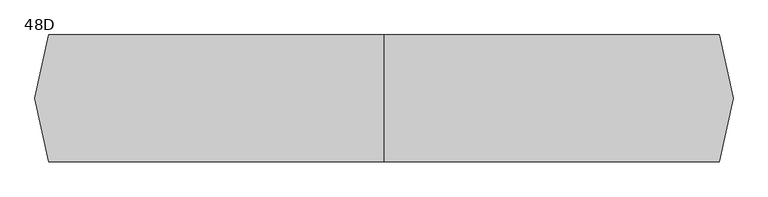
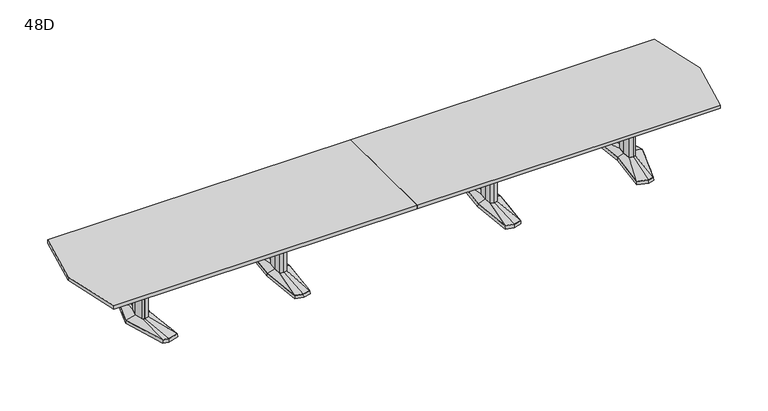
"""IFC4 building model written with IfcOpenShell, lengths in millimetres: furniture geometry, Coalesse_AM_Table_Conference_ETable2_Faceted_22ft_AluminiumBase : 48D."""

from ifc_helpers import new_model, si_unit, frame, origin, place, context, project, spatial, polyline, outline, extrude, faceted_brep, source, transform, mapped, element, save
from ifc_brep_helpers import plane_surface, spline_surface, advanced_brep


def furniture_48d_a73211f9(model_context):
    return source(origin(), model_context, "Body", "SolidModel", [
        faceted_brep([(1036.3666209, -433.8053819, 38.1), (1117.6, -455.556576, 38.1), (1198.8333791, -433.8053819, 38.1), (1236.6564774, 0.0, 38.1), (1198.8333791, 433.8053819, 38.1), (1117.6, 455.556576, 38.1), (1036.3666209, 433.8053819, 38.1), (998.5435226, 0.0, 38.1), (1034.8817205, -435.0512063, 3.175), (996.95, 0.0, 3.175), (1034.8817205, 435.0512063, 3.175), (1117.6, 457.2, 3.175), (1200.3182795, 435.0512063, 3.175), (1238.25, 0.0, 3.175), (1200.3182795, -435.0512063, 3.175), (1117.6, -457.2, 3.175), (1117.6, 429.2617927, 3.175), (1039.6323194, 408.3850278, 3.175), (1042.8980179, 382.9646737, 3.175), (1117.6, 402.9670094, 3.175), (1192.3019821, 382.9646737, 3.175), (1195.5676806, 408.3850278, 3.175), (1117.6, -429.2617927, 3.175), (1195.5676806, -408.3850278, 3.175), (1192.3019821, -382.9646737, 3.175), (1117.6, -402.9670094, 3.175), (1042.8980179, -382.9646737, 3.175), (1039.6323194, -408.3850278, 3.175), (1045.7425738, 114.6326257, 3.175), (1035.0573924, 0.0, 3.175), (1045.7425738, -114.6326257, 3.175), (1117.6, -133.8761372, 3.175), (1189.4574262, -114.6326257, 3.175), (1200.1426076, 0.0, 3.175), (1189.4574262, 114.6326257, 3.175), (1117.6, 133.8761372, 3.175), (1117.6, 429.2617927, 0.0), (1195.5676806, 408.3850278, 0.0), (1192.3019821, 382.9646737, 0.0), (1117.6, 402.9670094, 0.0), (1042.8980179, 382.9646737, 0.0), (1039.6323194, 408.3850278, 0.0), (1117.6, -429.2617927, 0.0), (1039.6323194, -408.3850278, 0.0), (1042.8980179, -382.9646737, 0.0), (1117.6, -402.9670094, 0.0), (1192.3019821, -382.9646737, 0.0), (1195.5676806, -408.3850278, 0.0), (1045.7425738, 114.6326257, 0.0), (1117.6, 133.8761372, 0.0), (1189.4574262, 114.6326257, 0.0), (1200.1426076, 0.0, 0.0), (1189.4574262, -114.6326257, 0.0), (1117.6, -133.8761372, 0.0), (1045.7425738, -114.6326257, 0.0), (1035.0573924, 0.0, 0.0)], [[[0, 1, 2, 3, 4, 5, 6, 7]], [[8, 9, 10, 11, 12, 13, 14, 15], [16, 17, 18, 19, 20, 21], [22, 23, 24, 25, 26, 27], [28, 29, 30, 31, 32, 33, 34, 35]], [[1, 0, 8, 15]], [[2, 1, 15, 14]], [[3, 2, 14, 13]], [[4, 3, 13, 12]], [[5, 4, 12, 11]], [[6, 5, 11, 10]], [[7, 6, 10, 9]], [[0, 7, 9, 8]], [[36, 37, 38, 39, 40, 41]], [[42, 43, 44, 45, 46, 47]], [[48, 49, 50, 51, 52, 53, 54, 55]], [[36, 41, 17, 16]], [[41, 40, 18, 17]], [[40, 39, 19, 18]], [[39, 38, 20, 19]], [[38, 37, 21, 20]], [[37, 36, 16, 21]], [[42, 47, 23, 22]], [[47, 46, 24, 23]], [[46, 45, 25, 24]], [[45, 44, 26, 25]], [[44, 43, 27, 26]], [[43, 42, 22, 27]], [[48, 55, 29, 28]], [[55, 54, 30, 29]], [[54, 53, 31, 30]], [[53, 52, 32, 31]], [[52, 51, 33, 32]], [[51, 50, 34, 33]], [[50, 49, 35, 34]], [[49, 48, 28, 35]]]),
        faceted_brep([(1081.2167166, 84.6900825, 698.5), (1073.3225513, 0.0, 698.5), (1081.2167166, -84.6900825, 698.5), (1117.6, -94.4335728, 698.5), (1153.9832834, -84.6900825, 698.5), (1161.8774487, 0.0, 698.5), (1153.9832834, 84.6900825, 698.5), (1117.6, 94.4335728, 698.5), (1081.2167166, 84.6900825, 63.5), (1117.6, 94.4335728, 63.5), (1153.9832834, 84.6900825, 63.5), (1161.8774487, 0.0, 63.5), (1153.9832834, -84.6900825, 63.5), (1117.6, -94.4335728, 63.5), (1081.2167166, -84.6900825, 63.5), (1073.3225513, 0.0, 63.5)], [[[0, 1, 2, 3, 4, 5, 6, 7]], [[8, 9, 10, 11, 12, 13, 14, 15]], [[1, 0, 8, 15]], [[2, 1, 15, 14]], [[3, 2, 14, 13]], [[4, 3, 13, 12]], [[5, 4, 12, 11]], [[6, 5, 11, 10]], [[7, 6, 10, 9]], [[0, 7, 9, 8]]]),
        advanced_brep(
        [(1081.2167166, 84.6900825, 63.5), (1073.3225513, 0.0, 63.5), (1081.2167166, -84.6900825, 63.5), (1117.6, -94.4335728, 63.5), (1153.9832834, -84.6900825, 63.5), (1161.8774487, 0.0, 63.5), (1153.9832834, 84.6900825, 63.5), (1117.6, 94.4335728, 63.5), (1036.3666209, 433.8053819, 38.1), (1117.6, 455.556576, 38.1), (1198.8333791, 433.8053819, 38.1), (1236.6564774, 0.0, 38.1), (1198.8333791, -433.8053819, 38.1), (1117.6, -455.556576, 38.1), (1036.3666209, -433.8053819, 38.1), (998.5435226, 0.0, 38.1)],
        [
            (0, 1),
            (1, 2),
            (2, 3),
            (3, 4),
            (4, 5),
            (5, 6),
            (6, 7),
            (7, 0),
            (8, 9),
            (9, 10),
            (10, 11),
            (11, 12),
            (12, 13),
            (13, 14),
            (14, 15),
            (15, 8),
            (15, 1),
            (0, 8),
            (14, 2),
            (13, 3),
            (12, 4),
            (11, 5),
            (10, 6),
            (9, 7),
        ],
        [
            plane_surface(frame((1117.6, 0.0, 63.5), z_axis=(0.0, 0.0, 1.0000000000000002), x_axis=(-0.9659615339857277, -0.25868574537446, 0.0))),
            plane_surface(frame((1117.6, 0.0, 38.1), z_axis=(0.0, 0.0, -1.0000000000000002), x_axis=(-0.9659615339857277, -0.25868574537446, 0.0))),
            spline_surface(1, 1, [[(1036.3666209, 433.8053819, 38.1), (1081.2167166, 84.6900825, 63.5)], [(998.5435226, 0.0, 38.1), (1073.3225513, 0.0, 63.5)]], [2, 2], [2, 2], [0.0, 1.0], [0.0, 1.0]),
            spline_surface(1, 1, [[(998.5435226, 0.0, 38.1), (1073.3225513, 0.0, 63.5)], [(1036.3666209, -433.8053819, 38.1), (1081.2167166, -84.6900825, 63.5)]], [2, 2], [2, 2], [0.0, 1.0], [0.0, 1.0]),
            spline_surface(1, 1, [[(1036.3666209, -433.8053819, 38.1), (1081.2167166, -84.6900825, 63.5)], [(1117.6, -455.556576, 38.1), (1117.6, -94.4335728, 63.5)]], [2, 2], [2, 2], [0.0, 1.0], [0.0, 1.0]),
            spline_surface(1, 1, [[(1117.6, -455.556576, 38.1), (1117.6, -94.4335728, 63.5)], [(1198.8333791, -433.8053819, 38.1), (1153.9832834, -84.6900825, 63.5)]], [2, 2], [2, 2], [0.0, 1.0], [0.0, 1.0]),
            spline_surface(1, 1, [[(1198.8333791, -433.8053819, 38.1), (1153.9832834, -84.6900825, 63.5)], [(1236.6564774, 0.0, 38.1), (1161.8774487, 0.0, 63.5)]], [2, 2], [2, 2], [0.0, 1.0], [0.0, 1.0]),
            spline_surface(1, 1, [[(1236.6564774, 0.0, 38.1), (1161.8774487, 0.0, 63.5)], [(1198.8333791, 433.8053819, 38.1), (1153.9832834, 84.6900825, 63.5)]], [2, 2], [2, 2], [0.0, 1.0], [0.0, 1.0]),
            spline_surface(1, 1, [[(1198.8333791, 433.8053819, 38.1), (1153.9832834, 84.6900825, 63.5)], [(1117.6, 455.556576, 38.1), (1117.6, 94.4335728, 63.5)]], [2, 2], [2, 2], [0.0, 1.0], [0.0, 1.0]),
            spline_surface(1, 1, [[(1117.6, 455.556576, 38.1), (1117.6, 94.4335728, 63.5)], [(1036.3666209, 433.8053819, 38.1), (1081.2167166, 84.6900825, 63.5)]], [2, 2], [2, 2], [0.0, 1.0], [0.0, 1.0]),
        ],
        [
            (0, [[1, 2, 3, 4, 5, 6, 7, 8]]),
            (1, [[9, 10, 11, 12, 13, 14, 15, 16]]),
            (2, [[-16, 17, -1, 18]]),
            (3, [[-15, 19, -2, -17]]),
            (4, [[-14, 20, -3, -19]]),
            (5, [[-13, 21, -4, -20]]),
            (6, [[-12, 22, -5, -21]]),
            (7, [[-11, 23, -6, -22]]),
            (8, [[-10, 24, -7, -23]]),
            (9, [[-9, -18, -8, -24]]),
        ],
    ),
        faceted_brep([(-1198.8333791, -433.8053819, 38.1), (-1117.6, -455.556576, 38.1), (-1036.3666209, -433.8053819, 38.1), (-998.5435226, 0.0, 38.1), (-1036.3666209, 433.8053819, 38.1), (-1117.6, 455.556576, 38.1), (-1198.8333791, 433.8053819, 38.1), (-1236.6564774, 0.0, 38.1), (-1200.3182795, -435.0512063, 3.175), (-1238.25, 0.0, 3.175), (-1200.3182795, 435.0512063, 3.175), (-1117.6, 457.2, 3.175), (-1034.8817205, 435.0512063, 3.175), (-996.95, 0.0, 3.175), (-1034.8817205, -435.0512063, 3.175), (-1117.6, -457.2, 3.175), (-1117.6, 429.2617927, 3.175), (-1195.5676806, 408.3850278, 3.175), (-1192.3019821, 382.9646737, 3.175), (-1117.6, 402.9670094, 3.175), (-1042.8980179, 382.9646737, 3.175), (-1039.6323194, 408.3850278, 3.175), (-1117.6, -429.2617927, 3.175), (-1039.6323194, -408.3850278, 3.175), (-1042.8980179, -382.9646737, 3.175), (-1117.6, -402.9670094, 3.175), (-1192.3019821, -382.9646737, 3.175), (-1195.5676806, -408.3850278, 3.175), (-1189.4574262, 114.6326257, 3.175), (-1200.1426076, 0.0, 3.175), (-1189.4574262, -114.6326257, 3.175), (-1117.6, -133.8761372, 3.175), (-1045.7425738, -114.6326257, 3.175), (-1035.0573924, 0.0, 3.175), (-1045.7425738, 114.6326257, 3.175), (-1117.6, 133.8761372, 3.175), (-1117.6, 429.2617927, 0.0), (-1039.6323194, 408.3850278, 0.0), (-1042.8980179, 382.9646737, 0.0), (-1117.6, 402.9670094, 0.0), (-1192.3019821, 382.9646737, 0.0), (-1195.5676806, 408.3850278, 0.0), (-1117.6, -429.2617927, 0.0), (-1195.5676806, -408.3850278, 0.0), (-1192.3019821, -382.9646737, 0.0), (-1117.6, -402.9670094, 0.0), (-1042.8980179, -382.9646737, 0.0), (-1039.6323194, -408.3850278, 0.0), (-1189.4574262, 114.6326257, 0.0), (-1117.6, 133.8761372, 0.0), (-1045.7425738, 114.6326257, 0.0), (-1035.0573924, 0.0, 0.0), (-1045.7425738, -114.6326257, 0.0), (-1117.6, -133.8761372, 0.0), (-1189.4574262, -114.6326257, 0.0), (-1200.1426076, 0.0, 0.0)], [[[0, 1, 2, 3, 4, 5, 6, 7]], [[8, 9, 10, 11, 12, 13, 14, 15], [16, 17, 18, 19, 20, 21], [22, 23, 24, 25, 26, 27], [28, 29, 30, 31, 32, 33, 34, 35]], [[1, 0, 8, 15]], [[2, 1, 15, 14]], [[3, 2, 14, 13]], [[4, 3, 13, 12]], [[5, 4, 12, 11]], [[6, 5, 11, 10]], [[7, 6, 10, 9]], [[0, 7, 9, 8]], [[36, 37, 38, 39, 40, 41]], [[42, 43, 44, 45, 46, 47]], [[48, 49, 50, 51, 52, 53, 54, 55]], [[36, 41, 17, 16]], [[41, 40, 18, 17]], [[40, 39, 19, 18]], [[39, 38, 20, 19]], [[38, 37, 21, 20]], [[37, 36, 16, 21]], [[42, 47, 23, 22]], [[47, 46, 24, 23]], [[46, 45, 25, 24]], [[45, 44, 26, 25]], [[44, 43, 27, 26]], [[43, 42, 22, 27]], [[48, 55, 29, 28]], [[55, 54, 30, 29]], [[54, 53, 31, 30]], [[53, 52, 32, 31]], [[52, 51, 33, 32]], [[51, 50, 34, 33]], [[50, 49, 35, 34]], [[49, 48, 28, 35]]]),
        faceted_brep([(-1153.9832834, 84.6900825, 698.5), (-1161.8774487, 0.0, 698.5), (-1153.9832834, -84.6900825, 698.5), (-1117.6, -94.4335728, 698.5), (-1081.2167166, -84.6900825, 698.5), (-1073.3225513, 0.0, 698.5), (-1081.2167166, 84.6900825, 698.5), (-1117.6, 94.4335728, 698.5), (-1153.9832834, 84.6900825, 63.5), (-1117.6, 94.4335728, 63.5), (-1081.2167166, 84.6900825, 63.5), (-1073.3225513, 0.0, 63.5), (-1081.2167166, -84.6900825, 63.5), (-1117.6, -94.4335728, 63.5), (-1153.9832834, -84.6900825, 63.5), (-1161.8774487, 0.0, 63.5)], [[[0, 1, 2, 3, 4, 5, 6, 7]], [[8, 9, 10, 11, 12, 13, 14, 15]], [[1, 0, 8, 15]], [[2, 1, 15, 14]], [[3, 2, 14, 13]], [[4, 3, 13, 12]], [[5, 4, 12, 11]], [[6, 5, 11, 10]], [[7, 6, 10, 9]], [[0, 7, 9, 8]]]),
        advanced_brep(
        [(-1153.9832834, 84.6900825, 63.5), (-1161.8774487, 0.0, 63.5), (-1153.9832834, -84.6900825, 63.5), (-1117.6, -94.4335728, 63.5), (-1081.2167166, -84.6900825, 63.5), (-1073.3225513, 0.0, 63.5), (-1081.2167166, 84.6900825, 63.5), (-1117.6, 94.4335728, 63.5), (-1198.8333791, 433.8053819, 38.1), (-1117.6, 455.556576, 38.1), (-1036.3666209, 433.8053819, 38.1), (-998.5435226, 0.0, 38.1), (-1036.3666209, -433.8053819, 38.1), (-1117.6, -455.556576, 38.1), (-1198.8333791, -433.8053819, 38.1), (-1236.6564774, 0.0, 38.1)],
        [
            (0, 1),
            (1, 2),
            (2, 3),
            (3, 4),
            (4, 5),
            (5, 6),
            (6, 7),
            (7, 0),
            (8, 9),
            (9, 10),
            (10, 11),
            (11, 12),
            (12, 13),
            (13, 14),
            (14, 15),
            (15, 8),
            (15, 1),
            (0, 8),
            (14, 2),
            (13, 3),
            (12, 4),
            (11, 5),
            (10, 6),
            (9, 7),
        ],
        [
            plane_surface(frame((-1117.6, 0.0, 63.5), z_axis=(0.0, 0.0, 1.0000000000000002), x_axis=(-0.9659615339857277, -0.25868574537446, 0.0))),
            plane_surface(frame((-1117.6, 0.0, 38.1), z_axis=(0.0, 0.0, -1.0000000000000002), x_axis=(-0.9659615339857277, -0.25868574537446, 0.0))),
            spline_surface(1, 1, [[(-1198.8333791, 433.8053819, 38.1), (-1153.9832834, 84.6900825, 63.5)], [(-1236.6564774, 0.0, 38.1), (-1161.8774487, 0.0, 63.5)]], [2, 2], [2, 2], [0.0, 1.0], [0.0, 1.0]),
            spline_surface(1, 1, [[(-1236.6564774, 0.0, 38.1), (-1161.8774487, 0.0, 63.5)], [(-1198.8333791, -433.8053819, 38.1), (-1153.9832834, -84.6900825, 63.5)]], [2, 2], [2, 2], [0.0, 1.0], [0.0, 1.0]),
            spline_surface(1, 1, [[(-1198.8333791, -433.8053819, 38.1), (-1153.9832834, -84.6900825, 63.5)], [(-1117.6, -455.556576, 38.1), (-1117.6, -94.4335728, 63.5)]], [2, 2], [2, 2], [0.0, 1.0], [0.0, 1.0]),
            spline_surface(1, 1, [[(-1117.6, -455.556576, 38.1), (-1117.6, -94.4335728, 63.5)], [(-1036.3666209, -433.8053819, 38.1), (-1081.2167166, -84.6900825, 63.5)]], [2, 2], [2, 2], [0.0, 1.0], [0.0, 1.0]),
            spline_surface(1, 1, [[(-1036.3666209, -433.8053819, 38.1), (-1081.2167166, -84.6900825, 63.5)], [(-998.5435226, 0.0, 38.1), (-1073.3225513, 0.0, 63.5)]], [2, 2], [2, 2], [0.0, 1.0], [0.0, 1.0]),
            spline_surface(1, 1, [[(-998.5435226, 0.0, 38.1), (-1073.3225513, 0.0, 63.5)], [(-1036.3666209, 433.8053819, 38.1), (-1081.2167166, 84.6900825, 63.5)]], [2, 2], [2, 2], [0.0, 1.0], [0.0, 1.0]),
            spline_surface(1, 1, [[(-1036.3666209, 433.8053819, 38.1), (-1081.2167166, 84.6900825, 63.5)], [(-1117.6, 455.556576, 38.1), (-1117.6, 94.4335728, 63.5)]], [2, 2], [2, 2], [0.0, 1.0], [0.0, 1.0]),
            spline_surface(1, 1, [[(-1117.6, 455.556576, 38.1), (-1117.6, 94.4335728, 63.5)], [(-1198.8333791, 433.8053819, 38.1), (-1153.9832834, 84.6900825, 63.5)]], [2, 2], [2, 2], [0.0, 1.0], [0.0, 1.0]),
        ],
        [
            (0, [[1, 2, 3, 4, 5, 6, 7, 8]]),
            (1, [[9, 10, 11, 12, 13, 14, 15, 16]]),
            (2, [[-16, 17, -1, 18]]),
            (3, [[-15, 19, -2, -17]]),
            (4, [[-14, 20, -3, -19]]),
            (5, [[-13, 21, -4, -20]]),
            (6, [[-12, 22, -5, -21]]),
            (7, [[-11, 23, -6, -22]]),
            (8, [[-10, 24, -7, -23]]),
            (9, [[-9, -18, -8, -24]]),
        ],
    ),
        faceted_brep([(2548.0994335, 455.5848221, 38.1), (2438.5218777, 426.2263816, 38.1), (2479.6851217, 0.0, 38.1), (2438.5218777, -426.2263816, 38.1), (2548.0994335, -455.5848221, 38.1), (2604.2257896, -440.5478297, 38.1), (2741.5371769, 0.0, 38.1), (2604.2257896, 440.5478297, 38.1), (2548.0994254, 457.2283104, 3.175), (2605.4811972, 441.8549756, 3.175), (2743.2, 0.0, 3.175), (2605.4811972, -441.8549756, 3.175), (2548.0994254, -457.2283104, 3.175), (2436.8125, -427.4118891, 3.175), (2478.0902356, 0.0, 3.175), (2436.8125, 427.4118891, 3.175), (2551.688865, 428.3273875, 3.175), (2446.6405728, 402.1057253, 3.175), (2454.759268, 377.985069, 3.175), (2555.2782966, 401.0699529, 3.175), (2605.8379225, 387.524361, 3.175), (2605.0318561, 414.0360954, 3.175), (2551.688865, -428.3273875, 3.175), (2605.0318561, -414.0360954, 3.175), (2605.8379225, -387.524361, 3.175), (2555.2782966, -401.0699529, 3.175), (2454.759268, -377.985069, 3.175), (2446.6405728, -402.1057253, 3.175), (2678.2841121, 0.0, 3.175), (2646.0147111, 120.4193755, 3.175), (2597.3674722, 133.471665, 3.175), (2517.4868026, 119.4176561, 3.175), (2506.3555966, 0.0, 3.175), (2517.4868026, -119.4176561, 3.175), (2597.3674722, -133.471665, 3.175), (2646.0147111, -120.4193755, 3.175), (2551.688865, 428.3273875, 0.0), (2605.0318561, 414.0360954, 0.0), (2605.8379225, 387.524361, 0.0), (2555.2782966, 401.0699529, 0.0), (2454.759268, 377.985069, 0.0), (2446.6405728, 402.1057253, 0.0), (2551.688865, -428.3273875, 0.0), (2446.6405728, -402.1057253, 0.0), (2454.759268, -377.985069, 0.0), (2555.2782966, -401.0699529, 0.0), (2605.8379225, -387.524361, 0.0), (2605.0318561, -414.0360954, 0.0), (2678.2841121, 0.0, 0.0), (2646.0147111, -120.4193755, 0.0), (2597.3674722, -133.471665, 0.0), (2517.4868026, -119.4176561, 0.0), (2506.3555966, 0.0, 0.0), (2517.4868026, 119.4176561, 0.0), (2597.3674722, 133.471665, 0.0), (2646.0147111, 120.4193755, 0.0)], [[[0, 1, 2, 3, 4, 5, 6, 7]], [[8, 9, 10, 11, 12, 13, 14, 15], [16, 17, 18, 19, 20, 21], [22, 23, 24, 25, 26, 27], [28, 29, 30, 31, 32, 33, 34, 35]], [[7, 9, 8, 0]], [[6, 10, 9, 7]], [[5, 11, 10, 6]], [[4, 12, 11, 5]], [[3, 13, 12, 4]], [[2, 14, 13, 3]], [[1, 15, 14, 2]], [[0, 8, 15, 1]], [[36, 37, 38, 39, 40, 41]], [[42, 43, 44, 45, 46, 47]], [[48, 49, 50, 51, 52, 53, 54, 55]], [[36, 16, 21, 37]], [[37, 21, 20, 38]], [[38, 20, 19, 39]], [[39, 19, 18, 40]], [[40, 18, 17, 41]], [[41, 17, 16, 36]], [[42, 22, 27, 43]], [[43, 27, 26, 44]], [[44, 26, 25, 45]], [[45, 25, 24, 46]], [[46, 24, 23, 47]], [[47, 23, 22, 42]], [[48, 28, 35, 49]], [[49, 35, 34, 50]], [[50, 34, 33, 51]], [[51, 33, 32, 52]], [[52, 32, 31, 53]], [[53, 31, 30, 54]], [[54, 30, 29, 55]], [[55, 29, 28, 48]]]),
        faceted_brep([(2638.8398336, 0.0, 698.5), (2614.9046046, 89.3188359, 698.5), (2598.0512484, 93.8406728, 698.5), (2595.6514011, 94.4845635, 698.5), (2552.723896, 86.9320037, 698.5), (2544.6207556, 0.0, 698.5), (2552.723896, -86.9320037, 698.5), (2595.6514011, -94.4845635, 698.5), (2598.0512484, -93.8406728, 698.5), (2614.9046046, -89.3188359, 698.5), (2638.8398336, 0.0, 63.5), (2614.9046046, -89.3188359, 63.5), (2598.0512484, -93.8406728, 63.5), (2595.6514011, -94.4845635, 63.5), (2552.723896, -86.9320037, 63.5), (2544.6207556, 0.0, 63.5), (2552.723896, 86.9320037, 63.5), (2595.6514011, 94.4845635, 63.5), (2598.0512484, 93.8406728, 63.5), (2614.9046046, 89.3188359, 63.5)], [[[0, 1, 2, 3, 4, 5, 6, 7, 8, 9]], [[10, 11, 12, 13, 14, 15, 16, 17, 18, 19]], [[9, 11, 10, 0]], [[8, 12, 11, 9]], [[7, 13, 12, 8]], [[6, 14, 13, 7]], [[5, 15, 14, 6]], [[4, 16, 15, 5]], [[3, 17, 16, 4]], [[2, 18, 17, 3]], [[1, 19, 18, 2]], [[0, 10, 19, 1]]]),
        advanced_brep(
        [(2595.6514011, 94.4845635, 63.5), (2552.723896, 86.9320037, 63.5), (2544.6207556, 0.0, 63.5), (2552.723896, -86.9320037, 63.5), (2595.6514011, -94.4845635, 63.5), (2614.9046046, -89.3188359, 63.5), (2638.8398336, 0.0, 63.5), (2614.9046046, 89.3188359, 63.5), (2548.0994335, 455.5848221, 38.1), (2604.2257896, 440.5478297, 38.1), (2741.5371769, 0.0, 38.1), (2604.2257896, -440.5478297, 38.1), (2548.0994335, -455.5848221, 38.1), (2438.5218777, -426.2263816, 38.1), (2479.6851217, 0.0, 38.1), (2438.5218777, 426.2263816, 38.1)],
        [
            (0, 1),
            (1, 2),
            (2, 3),
            (3, 4),
            (4, 5),
            (5, 6),
            (6, 7),
            (7, 0),
            (8, 9),
            (9, 10),
            (10, 11),
            (11, 12),
            (12, 13),
            (13, 14),
            (14, 15),
            (15, 8),
            (8, 0),
            (7, 9),
            (6, 10),
            (5, 11),
            (4, 12),
            (3, 13),
            (2, 14),
            (1, 15),
        ],
        [
            plane_surface(frame((2588.7525491, 0.0, 63.5), z_axis=(0.0, 0.0, 1.0), x_axis=(-0.25884244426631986, -0.9659195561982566, 0.0))),
            plane_surface(frame((2550.3645625, 0.0, 38.1), z_axis=(0.0, 0.0, -1.0), x_axis=(-0.25884244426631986, -0.9659195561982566, 0.0))),
            spline_surface(1, 1, [[(2548.0994335, 455.5848221, 38.1), (2604.2257896, 440.5478297, 38.1)], [(2595.6514011, 94.4845635, 63.5), (2614.9046046, 89.3188359, 63.5)]], [2, 2], [2, 2], [0.0, 1.0], [0.0, 1.0]),
            spline_surface(1, 1, [[(2604.2257896, 440.5478297, 38.1), (2741.5371769, 0.0, 38.1)], [(2614.9046046, 89.3188359, 63.5), (2638.8398336, 0.0, 63.5)]], [2, 2], [2, 2], [0.0, 1.0], [0.0, 1.0]),
            spline_surface(1, 1, [[(2741.5371769, 0.0, 38.1), (2604.2257896, -440.5478297, 38.1)], [(2638.8398336, 0.0, 63.5), (2614.9046046, -89.3188359, 63.5)]], [2, 2], [2, 2], [0.0, 1.0], [0.0, 1.0]),
            spline_surface(1, 1, [[(2604.2257896, -440.5478297, 38.1), (2548.0994335, -455.5848221, 38.1)], [(2614.9046046, -89.3188359, 63.5), (2595.6514011, -94.4845635, 63.5)]], [2, 2], [2, 2], [0.0, 1.0], [0.0, 1.0]),
            spline_surface(1, 1, [[(2548.0994335, -455.5848221, 38.1), (2438.5218777, -426.2263816, 38.1)], [(2595.6514011, -94.4845635, 63.5), (2552.723896, -86.9320037, 63.5)]], [2, 2], [2, 2], [0.0, 1.0], [0.0, 1.0]),
            spline_surface(1, 1, [[(2438.5218777, -426.2263816, 38.1), (2479.6851217, 0.0, 38.1)], [(2552.723896, -86.9320037, 63.5), (2544.6207556, 0.0, 63.5)]], [2, 2], [2, 2], [0.0, 1.0], [0.0, 1.0]),
            spline_surface(1, 1, [[(2479.6851217, 0.0, 38.1), (2438.5218777, 426.2263816, 38.1)], [(2544.6207556, 0.0, 63.5), (2552.723896, 86.9320037, 63.5)]], [2, 2], [2, 2], [0.0, 1.0], [0.0, 1.0]),
            spline_surface(1, 1, [[(2438.5218777, 426.2263816, 38.1), (2548.0994335, 455.5848221, 38.1)], [(2552.723896, 86.9320037, 63.5), (2595.6514011, 94.4845635, 63.5)]], [2, 2], [2, 2], [0.0, 1.0], [0.0, 1.0]),
        ],
        [
            (0, [[1, 2, 3, 4, 5, 6, 7, 8]]),
            (1, [[9, 10, 11, 12, 13, 14, 15, 16]]),
            (2, [[17, -8, 18, -9]]),
            (3, [[-18, -7, 19, -10]]),
            (4, [[-19, -6, 20, -11]]),
            (5, [[-20, -5, 21, -12]]),
            (6, [[-21, -4, 22, -13]]),
            (7, [[-22, -3, 23, -14]]),
            (8, [[-23, -2, 24, -15]]),
            (9, [[-24, -1, -17, -16]]),
        ],
    ),
        faceted_brep([(-2548.0994335, 455.5848221, 38.1), (-2604.2257896, 440.5478297, 38.1), (-2741.5371769, 0.0, 38.1), (-2604.2257896, -440.5478297, 38.1), (-2548.0994335, -455.5848221, 38.1), (-2438.5218777, -426.2263816, 38.1), (-2479.6851217, 0.0, 38.1), (-2438.5218777, 426.2263816, 38.1), (-2548.0994254, 457.2283104, 3.175), (-2436.8125, 427.4118891, 3.175), (-2478.0902356, 0.0, 3.175), (-2436.8125, -427.4118891, 3.175), (-2548.0994254, -457.2283104, 3.175), (-2605.4811972, -441.8549756, 3.175), (-2743.2, 0.0, 3.175), (-2605.4811972, 441.8549756, 3.175), (-2551.688865, 428.3273875, 3.175), (-2605.0318561, 414.0360954, 3.175), (-2605.8379225, 387.524361, 3.175), (-2555.2782966, 401.0699529, 3.175), (-2454.759268, 377.985069, 3.175), (-2446.6405728, 402.1057253, 3.175), (-2551.688865, -428.3273875, 3.175), (-2446.6405728, -402.1057253, 3.175), (-2454.759268, -377.985069, 3.175), (-2555.2782966, -401.0699529, 3.175), (-2605.8379225, -387.524361, 3.175), (-2605.0318561, -414.0360954, 3.175), (-2678.2841121, 0.0, 3.175), (-2646.0147111, -120.4193755, 3.175), (-2597.3674722, -133.471665, 3.175), (-2517.4868026, -119.4176561, 3.175), (-2506.3555966, 0.0, 3.175), (-2517.4868026, 119.4176561, 3.175), (-2597.3674722, 133.471665, 3.175), (-2646.0147111, 120.4193755, 3.175), (-2551.688865, 428.3273875, 0.0), (-2446.6405728, 402.1057253, 0.0), (-2454.759268, 377.985069, 0.0), (-2555.2782966, 401.0699529, 0.0), (-2605.8379225, 387.524361, 0.0), (-2605.0318561, 414.0360954, 0.0), (-2551.688865, -428.3273875, 0.0), (-2605.0318561, -414.0360954, 0.0), (-2605.8379225, -387.524361, 0.0), (-2555.2782966, -401.0699529, 0.0), (-2454.759268, -377.985069, 0.0), (-2446.6405728, -402.1057253, 0.0), (-2678.2841121, 0.0, 0.0), (-2646.0147111, 120.4193755, 0.0), (-2597.3674722, 133.471665, 0.0), (-2517.4868026, 119.4176561, 0.0), (-2506.3555966, 0.0, 0.0), (-2517.4868026, -119.4176561, 0.0), (-2597.3674722, -133.471665, 0.0), (-2646.0147111, -120.4193755, 0.0)], [[[0, 1, 2, 3, 4, 5, 6, 7]], [[8, 9, 10, 11, 12, 13, 14, 15], [16, 17, 18, 19, 20, 21], [22, 23, 24, 25, 26, 27], [28, 29, 30, 31, 32, 33, 34, 35]], [[1, 0, 8, 15]], [[2, 1, 15, 14]], [[3, 2, 14, 13]], [[4, 3, 13, 12]], [[5, 4, 12, 11]], [[6, 5, 11, 10]], [[7, 6, 10, 9]], [[0, 7, 9, 8]], [[36, 37, 38, 39, 40, 41]], [[42, 43, 44, 45, 46, 47]], [[48, 49, 50, 51, 52, 53, 54, 55]], [[36, 41, 17, 16]], [[41, 40, 18, 17]], [[40, 39, 19, 18]], [[39, 38, 20, 19]], [[38, 37, 21, 20]], [[37, 36, 16, 21]], [[42, 47, 23, 22]], [[47, 46, 24, 23]], [[46, 45, 25, 24]], [[45, 44, 26, 25]], [[44, 43, 27, 26]], [[43, 42, 22, 27]], [[48, 55, 29, 28]], [[55, 54, 30, 29]], [[54, 53, 31, 30]], [[53, 52, 32, 31]], [[52, 51, 33, 32]], [[51, 50, 34, 33]], [[50, 49, 35, 34]], [[49, 48, 28, 35]]]),
        faceted_brep([(-2638.8398336, 0.0, 698.5), (-2614.9046046, -89.3188359, 698.5), (-2598.0512484, -93.8406728, 698.5), (-2595.6514011, -94.4845635, 698.5), (-2552.723896, -86.9320037, 698.5), (-2544.6207556, 0.0, 698.5), (-2552.723896, 86.9320037, 698.5), (-2595.6514011, 94.4845635, 698.5), (-2598.0512484, 93.8406728, 698.5), (-2614.9046046, 89.3188359, 698.5), (-2638.8398336, 0.0, 63.5), (-2614.9046046, 89.3188359, 63.5), (-2598.0512484, 93.8406728, 63.5), (-2595.6514011, 94.4845635, 63.5), (-2552.723896, 86.9320037, 63.5), (-2544.6207556, 0.0, 63.5), (-2552.723896, -86.9320037, 63.5), (-2595.6514011, -94.4845635, 63.5), (-2598.0512484, -93.8406728, 63.5), (-2614.9046046, -89.3188359, 63.5)], [[[0, 1, 2, 3, 4, 5, 6, 7, 8, 9]], [[10, 11, 12, 13, 14, 15, 16, 17, 18, 19]], [[1, 0, 10, 19]], [[2, 1, 19, 18]], [[3, 2, 18, 17]], [[4, 3, 17, 16]], [[5, 4, 16, 15]], [[6, 5, 15, 14]], [[7, 6, 14, 13]], [[8, 7, 13, 12]], [[9, 8, 12, 11]], [[0, 9, 11, 10]]]),
        advanced_brep(
        [(-2595.6514011, 94.4845635, 63.5), (-2614.9046046, 89.3188359, 63.5), (-2638.8398336, 0.0, 63.5), (-2614.9046046, -89.3188359, 63.5), (-2595.6514011, -94.4845635, 63.5), (-2552.723896, -86.9320037, 63.5), (-2544.6207556, 0.0, 63.5), (-2552.723896, 86.9320037, 63.5), (-2548.0994335, 455.5848221, 38.1), (-2438.5218777, 426.2263816, 38.1), (-2479.6851217, 0.0, 38.1), (-2438.5218777, -426.2263816, 38.1), (-2548.0994335, -455.5848221, 38.1), (-2604.2257896, -440.5478297, 38.1), (-2741.5371769, 0.0, 38.1), (-2604.2257896, 440.5478297, 38.1)],
        [
            (0, 1),
            (1, 2),
            (2, 3),
            (3, 4),
            (4, 5),
            (5, 6),
            (6, 7),
            (7, 0),
            (8, 9),
            (9, 10),
            (10, 11),
            (11, 12),
            (12, 13),
            (13, 14),
            (14, 15),
            (15, 8),
            (15, 1),
            (0, 8),
            (14, 2),
            (13, 3),
            (12, 4),
            (11, 5),
            (10, 6),
            (9, 7),
        ],
        [
            plane_surface(frame((-2588.7525491, 0.0, 63.5), z_axis=(0.0, 0.0, 1.0), x_axis=(0.25884244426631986, -0.9659195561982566, 0.0))),
            plane_surface(frame((-2550.3645625, 0.0, 38.1), z_axis=(0.0, 0.0, -1.0), x_axis=(0.25884244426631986, -0.9659195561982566, 0.0))),
            spline_surface(1, 1, [[(-2548.0994335, 455.5848221, 38.1), (-2595.6514011, 94.4845635, 63.5)], [(-2604.2257896, 440.5478297, 38.1), (-2614.9046046, 89.3188359, 63.5)]], [2, 2], [2, 2], [0.0, 1.0], [0.0, 1.0]),
            spline_surface(1, 1, [[(-2604.2257896, 440.5478297, 38.1), (-2614.9046046, 89.3188359, 63.5)], [(-2741.5371769, 0.0, 38.1), (-2638.8398336, 0.0, 63.5)]], [2, 2], [2, 2], [0.0, 1.0], [0.0, 1.0]),
            spline_surface(1, 1, [[(-2741.5371769, 0.0, 38.1), (-2638.8398336, 0.0, 63.5)], [(-2604.2257896, -440.5478297, 38.1), (-2614.9046046, -89.3188359, 63.5)]], [2, 2], [2, 2], [0.0, 1.0], [0.0, 1.0]),
            spline_surface(1, 1, [[(-2604.2257896, -440.5478297, 38.1), (-2614.9046046, -89.3188359, 63.5)], [(-2548.0994335, -455.5848221, 38.1), (-2595.6514011, -94.4845635, 63.5)]], [2, 2], [2, 2], [0.0, 1.0], [0.0, 1.0]),
            spline_surface(1, 1, [[(-2548.0994335, -455.5848221, 38.1), (-2595.6514011, -94.4845635, 63.5)], [(-2438.5218777, -426.2263816, 38.1), (-2552.723896, -86.9320037, 63.5)]], [2, 2], [2, 2], [0.0, 1.0], [0.0, 1.0]),
            spline_surface(1, 1, [[(-2438.5218777, -426.2263816, 38.1), (-2552.723896, -86.9320037, 63.5)], [(-2479.6851217, 0.0, 38.1), (-2544.6207556, 0.0, 63.5)]], [2, 2], [2, 2], [0.0, 1.0], [0.0, 1.0]),
            spline_surface(1, 1, [[(-2479.6851217, 0.0, 38.1), (-2544.6207556, 0.0, 63.5)], [(-2438.5218777, 426.2263816, 38.1), (-2552.723896, 86.9320037, 63.5)]], [2, 2], [2, 2], [0.0, 1.0], [0.0, 1.0]),
            spline_surface(1, 1, [[(-2438.5218777, 426.2263816, 38.1), (-2552.723896, 86.9320037, 63.5)], [(-2548.0994335, 455.5848221, 38.1), (-2595.6514011, 94.4845635, 63.5)]], [2, 2], [2, 2], [0.0, 1.0], [0.0, 1.0]),
        ],
        [
            (0, [[1, 2, 3, 4, 5, 6, 7, 8]]),
            (1, [[9, 10, 11, 12, 13, 14, 15, 16]]),
            (2, [[-16, 17, -1, 18]]),
            (3, [[-15, 19, -2, -17]]),
            (4, [[-14, 20, -3, -19]]),
            (5, [[-13, 21, -4, -20]]),
            (6, [[-12, 22, -5, -21]]),
            (7, [[-11, 23, -6, -22]]),
            (8, [[-10, 24, -7, -23]]),
            (9, [[-9, -18, -8, -24]]),
        ],
    ),
        extrude(outline(polyline([(96.8375, 698.5), (103.1875, 698.5), (103.1875, 476.25), (-103.1875, 476.25), (-103.1875, 698.5), (-96.8375, 698.5), (-96.8375, 482.6), (96.8375, 482.6), (96.8375, 698.5)])), frame((1161.8774487, 0.0, 0.0), z_axis=(1.0, 0.0, 0.0), x_axis=(0.0, 1.0, 0.0)), (0.0, 0.0, 1.0), 1382.8850513),
        extrude(outline(polyline([(96.8375, 698.5), (103.1875, 698.5), (103.1875, 476.25), (-103.1875, 476.25), (-103.1875, 698.5), (-96.8375, 698.5), (-96.8375, 482.6), (96.8375, 482.6), (96.8375, 698.5)])), frame((-1073.3225513, 0.0, 0.0), z_axis=(1.0, 0.0, 0.0), x_axis=(0.0, 1.0, 0.0)), (0.0, 0.0, 1.0), 2146.6451026),
        extrude(outline(polyline([(3217.6541794, 609.6), (3352.8, 0.0), (3217.6541794, -609.6), (0.0, -609.6), (0.0, 17.4619671), (0.0, 609.6), (3217.6541794, 609.6)])), frame((0.0, 0.0, 698.5), z_axis=(0.0, 0.0, 1.0), x_axis=(1.0, 0.0, 0.0)), (0.0, 0.0, 1.0), 38.1),
        extrude(outline(polyline([(0.0, 51.8614523), (0.0, -609.6), (-3217.6541794, -609.6), (-3352.8, 0.0), (-3217.6541794, 609.6), (0.0, 609.6), (0.0, 51.8614523)])), frame((0.0, 0.0, 698.5), z_axis=(0.0, 0.0, 1.0), x_axis=(1.0, 0.0, 0.0)), (0.0, 0.0, 1.0), 38.1),
        extrude(outline(polyline([(96.8375, 698.5), (103.1875, 698.5), (103.1875, 476.25), (-103.1875, 476.25), (-103.1875, 698.5), (-96.8375, 698.5), (-96.8375, 482.6), (96.8375, 482.6), (96.8375, 698.5)])), frame((-2544.7625, 0.0, 0.0), z_axis=(1.0, 0.0, 0.0), x_axis=(0.0, 1.0, 0.0)), (0.0, 0.0, 1.0), 1382.8850513),
    ])


if __name__ == "__main__":
    model = new_model("IFC4")
    model_context = context("Model", 3, world=origin())
    ifc_project = project(units=[si_unit("LENGTHUNIT", "METRE", prefix="MILLI")], contexts=[model_context])
    site = spatial("IfcSite", under=ifc_project)
    building = spatial("IfcBuilding", under=site)
    placement = place(None, origin())
    furniture_48d_shape = furniture_48d_a73211f9(model_context)
    element("IfcFurniture", 1, ObjectType="Coalesse_AM_Table_Conference_ETable2_Faceted_22ft_AluminiumBase : 48D", at=placement, inside=building, context=model_context, shape_type="MappedRepresentation", body=[
        mapped(furniture_48d_shape, transform((0.0, 0.0, 0.0), x_axis=(1.0, 0.0, 0.0), y_axis=(0.0, 1.0, 0.0), z_axis=(0.0, 0.0, 1.0))),
    ])
    save(model, "model.ifc")
